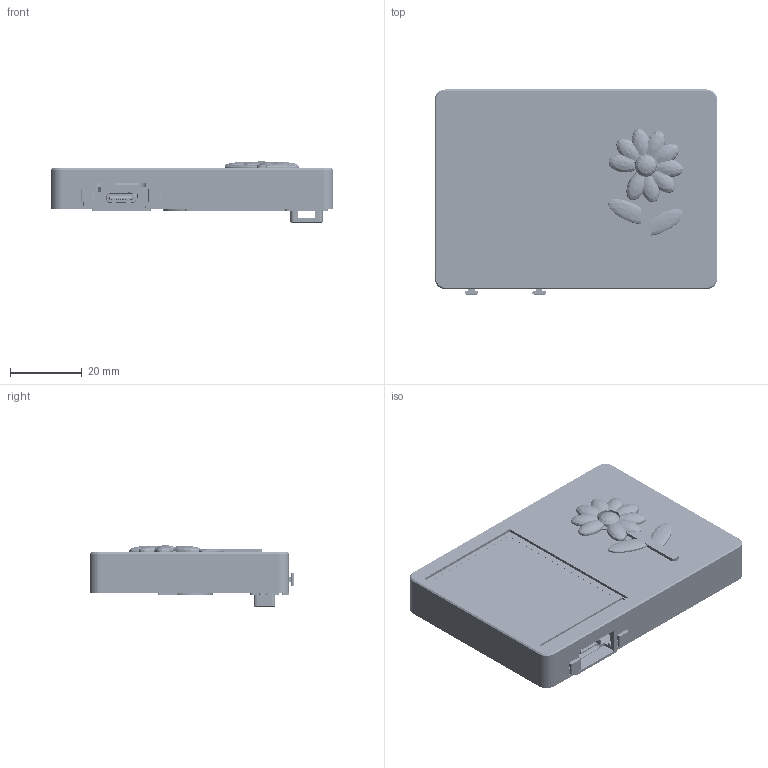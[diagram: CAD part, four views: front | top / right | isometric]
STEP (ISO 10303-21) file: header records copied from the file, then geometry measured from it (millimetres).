
FILE_DESCRIPTION(('Open CASCADE Model'),'2;1');
FILE_NAME('Open CASCADE Shape Model','2026-11-21T23:17:50',('Author'),( 'Open CASCADE'),'Open CASCADE STEP processor 7.9','Open CASCADE 7.9' ,'Unknown');
FILE_SCHEMA(('AUTOMOTIVE_DESIGN { 1 0 10303 214 1 1 1 1 }'));
Length unit declared in the file: millimetre
Products named in the file (11): NianNian_V12_11p4mm; A_main_two_bay; C_rear_cover; E_battery_spacer; K_BOOT_cap; K_RST_cap; hardware; battery; D_daisy_petals; D2_daisy_center; D3_stem_leaves
Assembly tree (10 placements, depth 2):
  NianNian_V12_11p4mm
    A_main_two_bay
    C_rear_cover
    E_battery_spacer
    K_BOOT_cap
    K_RST_cap
    hardware
    battery
    D_daisy_petals
    D2_daisy_center
    D3_stem_leaves
Bounding box: 79 x 57.3 x 17.2 mm (x, y, z)
Volume: 34879.1 mm3; surface area: 47407.5 mm2
Topology: 333 solids, 345 shells, 18050 faces, 47668 edges, 30985 vertices
Faces by surface type: plane 11938, extrusion 3289, cylinder 2337, sphere 331, cone 65, bspline 46, torus 44
Full cylindrical faces by diameter (mm): 1.1 x2, 1.2 x2, 1.4 x2, 1.9 x2, 3 x5, 6.57 x2
Entity records: 1403798 total; most frequent: CARTESIAN_POINT 481103, DIRECTION 155662, VECTOR 114719, LINE 111430, ORIENTED_EDGE 94662, PCURVE 94662, DEFINITIONAL_REPRESENTATION 94662, EDGE_CURVE 47331
